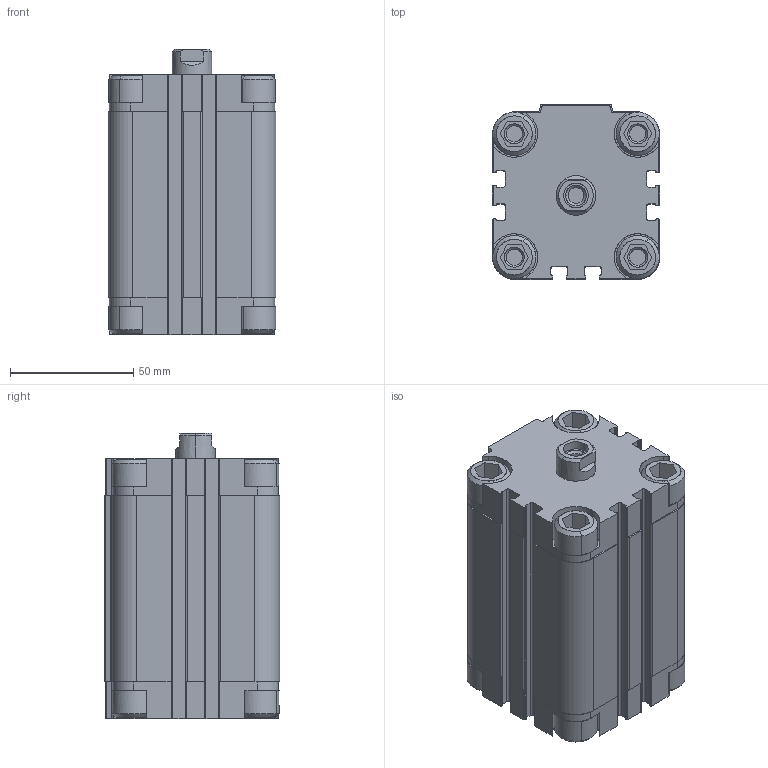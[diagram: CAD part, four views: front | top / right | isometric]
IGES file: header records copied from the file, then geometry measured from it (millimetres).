
Start section: SolidWorks IGES file using analytic representation for surfaces
Global section: file name: K:\Disegni Esecutivi\Cilindri\2_DISEGNI_cilindri_in_produzione\5_Cilindri Compatti\complessivicompatti\QF\QF050\QF050PARTI\QF50PARTI\QF0500060A.igs; native system: SolidWorks 2011; preprocessor: SolidWorks 2011; author: Cad01; date: 110919.164719; units: millimetre
Bounding box: 68 x 71 x 115.8 mm (x, y, z)
Surface area: 55215.4 mm2 (no closed solid volume)
Topology: 0 solids, 0 shells, 559 faces, 6077 edges, 6073 vertices
Faces by surface type: bspline 304, revolution 255
